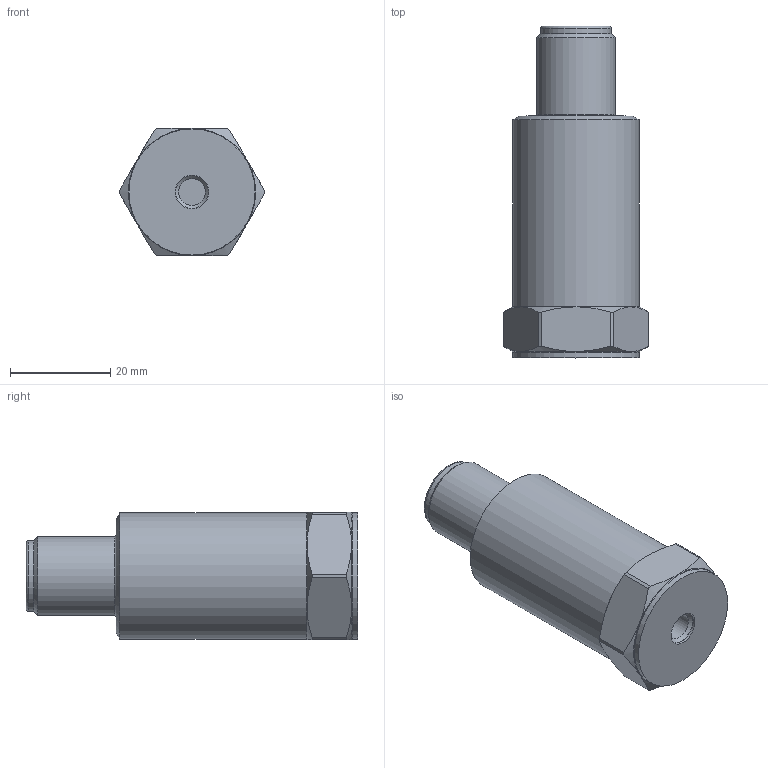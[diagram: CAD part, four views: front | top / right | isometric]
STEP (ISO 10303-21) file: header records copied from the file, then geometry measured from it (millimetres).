
FILE_DESCRIPTION(/* description */ (''),/* implementation_level */ '2;1');
FILE_NAME(/* name */ 'C:\Users\jfriend\Desktop\----Step files\Meredith Christman\640B00\640B00.stp',/* time_stamp */ '2019-12-11T10:39:20-05:00',/* author */ ('jfriend'),/* organization */ (''),/* preprocessor_version */ 'ST-DEVELOPER v17',/* originating_system */ 'Autodesk Inventor 2019',/* authorisation */ '');
FILE_SCHEMA (('AUTOMOTIVE_DESIGN { 1 0 10303 214 3 1 1 }'));
Length unit declared in the file: inch
Products named in the file (1): 640B00
Bounding box: 28.96 x 66.22 x 25.4 mm (x, y, z)
Volume: 26210.6 mm3; surface area: 6552.4 mm2
Topology: 1 solids, 1 shells, 71 faces, 180 edges, 119 vertices
Faces by surface type: cylinder 24, cone 20, plane 18, torus 7, sphere 2
Full cylindrical faces by diameter (mm): 0.762 x1, 1.016 x2, 1.549 x2, 3.188 x2, 5.359 x1, 6.731 x1, 11.684 x1, 14.148 x1, 15.748 x1, 25.146 x2
Entity records: 2347 total; most frequent: CARTESIAN_POINT 485, DIRECTION 396, ORIENTED_EDGE 352, EDGE_CURVE 176, AXIS2_PLACEMENT_3D 176, VERTEX_POINT 119, CIRCLE 104, EDGE_LOOP 85
